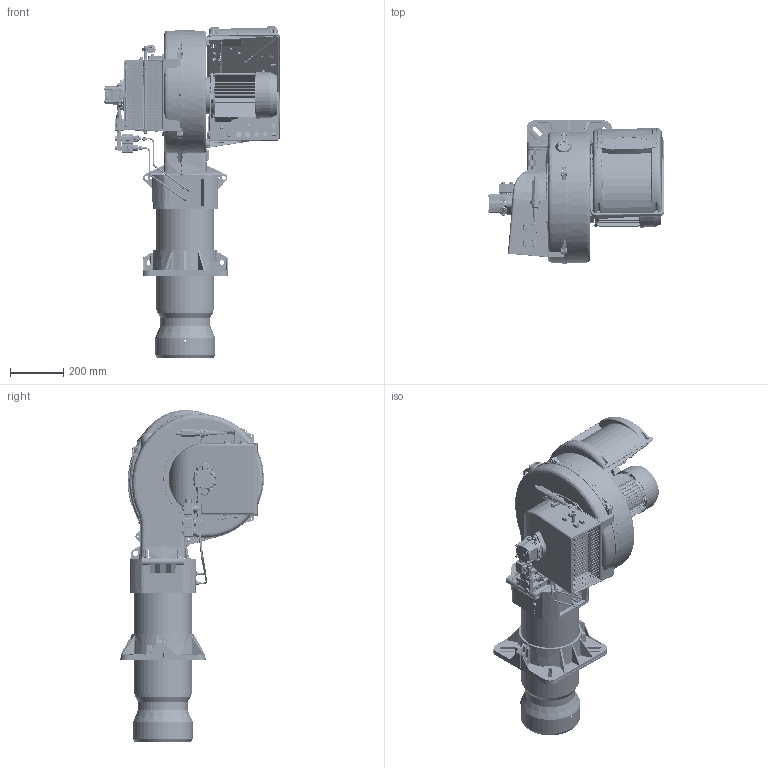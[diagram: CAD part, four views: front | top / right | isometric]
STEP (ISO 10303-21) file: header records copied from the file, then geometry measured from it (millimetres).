
FILE_DESCRIPTION (( 'STEP AP214' ), '1' );
FILE_NAME ('35950010-115291.STEP', '2019-06-05T13:45:16', ( '' ), ( '' ), 'SwSTEP 2.0', 'SolidWorks 2018', '' );
FILE_SCHEMA (( 'AUTOMOTIVE_DESIGN' ));
Length unit declared in the file: millimetre
Products named in the file (1): 35950010-115291
Bounding box: 662.41 x 538.47 x 1245.37 mm (x, y, z)
Surface area: 3590257.4 mm2 (no closed solid volume)
Topology: 0 solids, 264 shells, 4022 faces, 16805 edges, 12437 vertices
Faces by surface type: plane 1887, cylinder 1006, bspline 867, cone 237, torus 17, sphere 8
Full cylindrical faces by diameter (mm): 2.5 x1, 3 x3, 3.242 x3, 3.7 x4, 4 x2, 4.2 x7, 4.8 x3, 5 x4, 5.1 x1, 6 x10, 6.25 x2, 6.5 x3, 6.8 x2, 7 x13, 7.9 x1, 8 x15, 8.5 x4, 8.728 x1, 8.8 x3, 9.5 x3, 9.728 x3, 9.73 x1, 10 x6, 10.4 x2, 11 x4, 11.5 x1, 12 x3, 13.16 x1, 14 x5, 14.096 x1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
Entity records: 359579 total; most frequent: CARTESIAN_POINT 199052, ORIENTED_EDGE 23273, DIRECTION 17239, EDGE_CURVE 16374, VERTEX_POINT 12350, LINE 7437, VECTOR 7437, B_SPLINE_CURVE_WITH_KNOTS 6967
